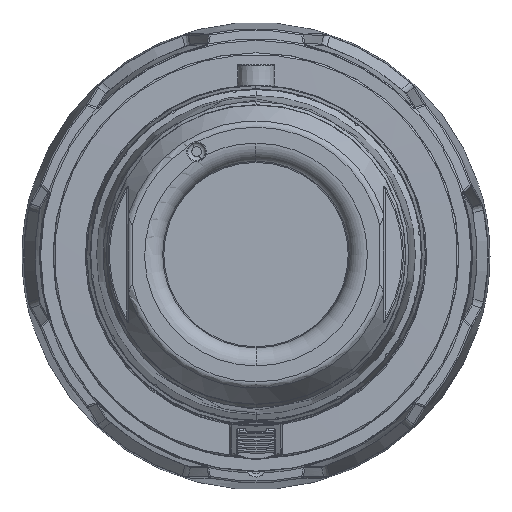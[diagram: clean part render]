
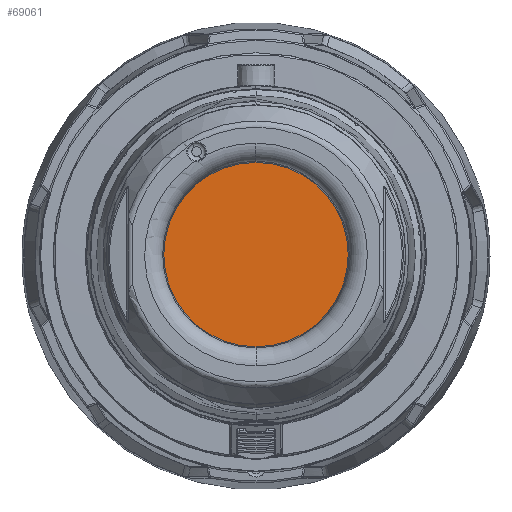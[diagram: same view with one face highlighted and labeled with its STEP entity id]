
A CAD part, top view. The second image highlights one B-rep face of the part: STEP entity #69061.
In plain terms, the highlighted planar face has unit normal (0, 0, 1).
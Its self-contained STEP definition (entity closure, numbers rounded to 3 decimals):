
#11297=CARTESIAN_POINT('',(0.,0.,208.02));
#11298=DIRECTION('',(0.,0.,1.));
#11299=DIRECTION('',(0.,-1.,0.));
#11300=AXIS2_PLACEMENT_3D('',#11297,#11298,#11299);
#11307=CARTESIAN_POINT('',(0.,0.,208.02));
#11308=DIRECTION('',(0.,0.,1.));
#11309=DIRECTION('',(0.,1.,0.));
#11310=AXIS2_PLACEMENT_3D('',#11307,#11308,#11309);
#47279=CARTESIAN_POINT('',(0.,-25.214,208.02));
#47280=CARTESIAN_POINT('',(0.,25.214,208.02));
#47281=VERTEX_POINT('',#47279);
#47282=VERTEX_POINT('',#47280);
#69051=CARTESIAN_POINT('',(0.,0.,208.02));
#69052=DIRECTION('',(0.,0.,-1.));
#69053=DIRECTION('',(1.,0.,0.));
#69054=AXIS2_PLACEMENT_3D('',#69051,#69052,#69053);
#69055=PLANE('2323',#69054);
#69056=ORIENTED_EDGE('8687',*,*,#69029,.F.);
#69058=ORIENTED_EDGE('8688',*,*,#69057,.F.);
#69059=EDGE_LOOP('2323',(#69056,#69058));
#69060=FACE_OUTER_BOUND('2323',#69059,.F.);
#11301=CIRCLE('8687',#11300,25.214);
#11311=CIRCLE('8688',#11310,25.214);
#69029=EDGE_CURVE('8687',#47281,#47282,#11301,.T.);
#69057=EDGE_CURVE('8688',#47282,#47281,#11311,.T.);
#69061=ADVANCED_FACE('2323',(#69060),#69055,.F.);
